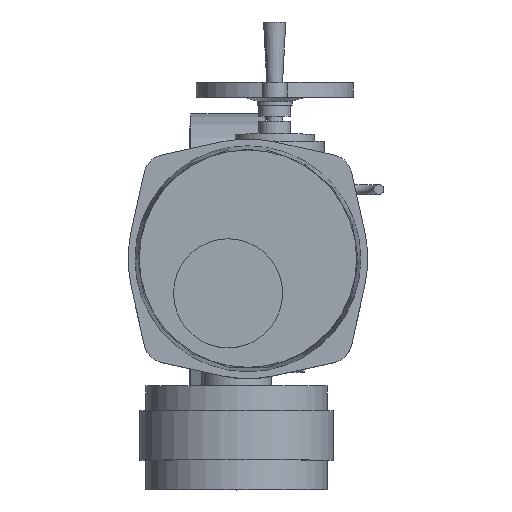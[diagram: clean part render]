
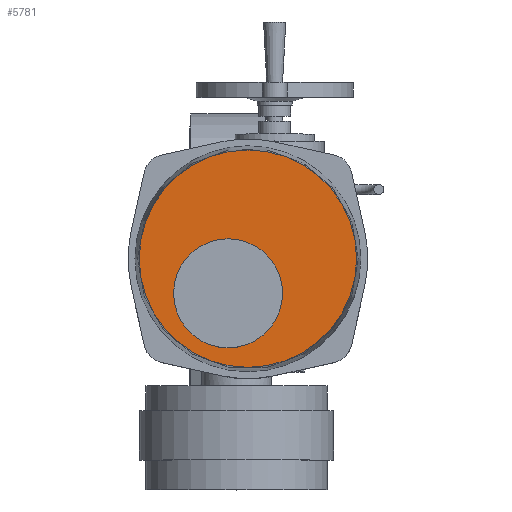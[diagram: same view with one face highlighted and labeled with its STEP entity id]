
A CAD part, top view. The second image highlights one B-rep face of the part: STEP entity #5781.
In plain terms, the highlighted planar face has unit normal (0, 0, 1).
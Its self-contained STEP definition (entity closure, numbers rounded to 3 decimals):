
#5781=ADVANCED_FACE('',(#12649,#12651),#12653,.T.);
#12649=FACE_BOUND('',#12650,.T.);
#12650=EDGE_LOOP('',(#17612));
#12651=FACE_BOUND('',#12652,.T.);
#12652=EDGE_LOOP('',(#17613));
#12653=PLANE('',#12654);
#12654=AXIS2_PLACEMENT_3D('',#12655,#12656,#12657);
#12655=CARTESIAN_POINT('',(20.,38.,589.));
#12656=DIRECTION('',(0.,0.,1.));
#12657=DIRECTION('',(-1.,0.,0.));
#17612=ORIENTED_EDGE('',*,*,#20209,.T.);
#17613=ORIENTED_EDGE('',*,*,#21250,.F.);
#20209=EDGE_CURVE('',#23391,#23391,#23392,.T.);
#21250=EDGE_CURVE('',#24950,#24950,#24951,.T.);
#23391=VERTEX_POINT('',#30777);
#23392=CIRCLE('',#30778,109.703);
#24950=VERTEX_POINT('',#34849);
#24951=CIRCLE('',#34850,55.);
#30777=CARTESIAN_POINT('',(-89.703,38.,589.));
#30778=AXIS2_PLACEMENT_3D('',#30779,#30780,#30781);
#30779=CARTESIAN_POINT('',(20.,38.,589.));
#30780=DIRECTION('',(0.,0.,1.));
#30781=DIRECTION('',(-1.,0.,0.));
#34849=CARTESIAN_POINT('',(-55.,3.,589.));
#34850=AXIS2_PLACEMENT_3D('',#34851,#34852,#34853);
#34851=CARTESIAN_POINT('',(0.,3.,589.));
#34852=DIRECTION('',(0.,0.,1.));
#34853=DIRECTION('',(-1.,0.,0.));
